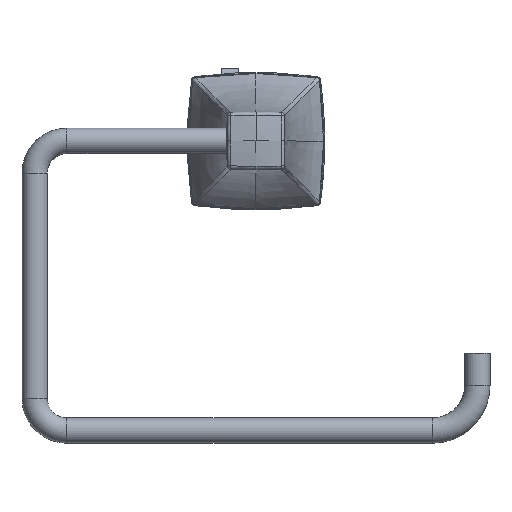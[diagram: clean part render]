
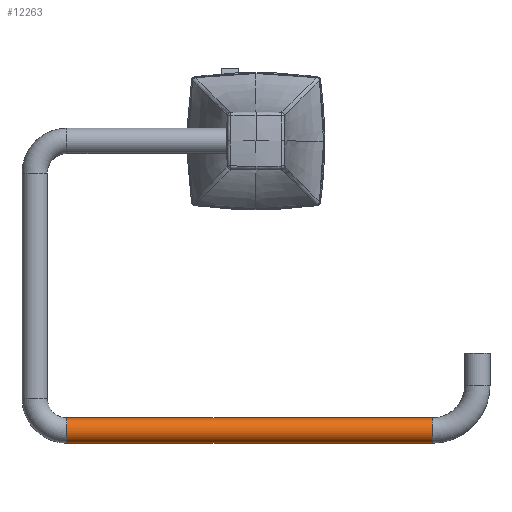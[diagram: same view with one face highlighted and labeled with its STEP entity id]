
A CAD part, top view. The second image highlights one B-rep face of the part: STEP entity #12263.
In plain terms, the highlighted cylindrical face has radius 5 mm (diameter 10 mm), a partial arc.
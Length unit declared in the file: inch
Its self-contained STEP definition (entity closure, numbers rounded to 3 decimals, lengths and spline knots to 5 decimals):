
#4 = VECTOR ( 'NONE', #6201, 39.37008 ) ;
#585 = ORIENTED_EDGE ( 'NONE', *, *, #12304, .F. ) ;
#2230 = CARTESIAN_POINT ( 'NONE',  ( 2.73799, -4.5, 0. ) ) ;
#2555 = CARTESIAN_POINT ( 'NONE',  ( -2.93858, -4.30315, 0. ) ) ;
#5440 = EDGE_CURVE ( 'NONE', #34666, #22392, #22643, .T. ) ;
#6201 = DIRECTION ( 'NONE',  ( 1., 0., 0. ) ) ;
#7546 = CYLINDRICAL_SURFACE ( 'NONE', #23080, 0.19685 ) ;
#8310 = EDGE_CURVE ( 'NONE', #9255, #34666, #23679, .T. ) ;
#8962 = AXIS2_PLACEMENT_3D ( 'NONE', #2230, #10042, #16043 ) ;
#9255 = VERTEX_POINT ( 'NONE', #2555 ) ;
#10042 = DIRECTION ( 'NONE',  ( 1., 0., 0. ) ) ;
#10504 = ORIENTED_EDGE ( 'NONE', *, *, #5440, .T. ) ;
#12032 = CARTESIAN_POINT ( 'NONE',  ( -2.93858, -4.69685, 0. ) ) ;
#12263 = ADVANCED_FACE ( 'NONE', ( #13057 ), #7546, .T. ) ;
#12304 = EDGE_CURVE ( 'NONE', #28240, #22392, #22527, .T. ) ;
#13057 = FACE_OUTER_BOUND ( 'NONE', #22444, .T. ) ;
#13376 = CARTESIAN_POINT ( 'NONE',  ( -2.93858, -4.69685, 0. ) ) ;
#15698 = CARTESIAN_POINT ( 'NONE',  ( -2.93858, -4.5, 0. ) ) ;
#15833 = CARTESIAN_POINT ( 'NONE',  ( 2.73799, -4.69685, 0. ) ) ;
#16043 = DIRECTION ( 'NONE',  ( 0., 1., 0. ) ) ;
#17502 = DIRECTION ( 'NONE',  ( 1., 0., 0. ) ) ;
#18286 = EDGE_CURVE ( 'NONE', #9255, #28240, #33315, .T. ) ;
#18519 = DIRECTION ( 'NONE',  ( 0., 1., 0. ) ) ;
#21303 = ORIENTED_EDGE ( 'NONE', *, *, #8310, .T. ) ;
#22392 = VERTEX_POINT ( 'NONE', #15833 ) ;
#22444 = EDGE_LOOP ( 'NONE', ( #10504, #585, #33749, #21303 ) ) ;
#22527 = CIRCLE ( 'NONE', #8962, 0.19685 ) ;
#22643 = LINE ( 'NONE', #12032, #25520 ) ;
#22671 = CARTESIAN_POINT ( 'NONE',  ( -2.93858, -4.30315, 0. ) ) ;
#23080 = AXIS2_PLACEMENT_3D ( 'NONE', #15698, #26490, #18519 ) ;
#23679 = CIRCLE ( 'NONE', #34421, 0.19685 ) ;
#25520 = VECTOR ( 'NONE', #17502, 39.37008 ) ;
#26490 = DIRECTION ( 'NONE',  ( 1., 0., 0. ) ) ;
#27721 = DIRECTION ( 'NONE',  ( 0., 1., 0. ) ) ;
#28240 = VERTEX_POINT ( 'NONE', #30085 ) ;
#30085 = CARTESIAN_POINT ( 'NONE',  ( 2.73799, -4.30315, 0. ) ) ;
#30213 = DIRECTION ( 'NONE',  ( 1., 0., 0. ) ) ;
#30381 = CARTESIAN_POINT ( 'NONE',  ( -2.93858, -4.5, 0. ) ) ;
#33315 = LINE ( 'NONE', #22671, #4 ) ;
#33749 = ORIENTED_EDGE ( 'NONE', *, *, #18286, .F. ) ;
#34421 = AXIS2_PLACEMENT_3D ( 'NONE', #30381, #30213, #27721 ) ;
#34666 = VERTEX_POINT ( 'NONE', #13376 ) ;
